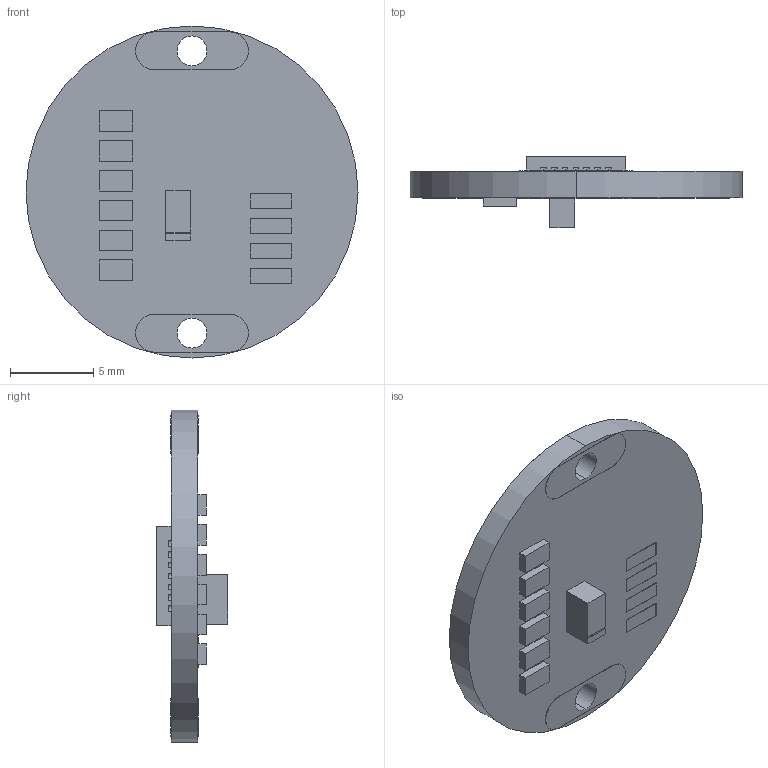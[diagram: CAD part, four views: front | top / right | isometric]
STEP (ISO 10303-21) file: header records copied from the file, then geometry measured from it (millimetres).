
FILE_DESCRIPTION (( 'STEP AP214' ), '1' );
FILE_NAME ('RMB20AC.STEP', '2016-12-19T13:04:27', ( '' ), ( '' ), 'SwSTEP 2.0', 'SolidWorks 2016', '' );
FILE_SCHEMA (( 'AUTOMOTIVE_DESIGN' ));
Length unit declared in the file: millimetre
Products named in the file (1): RMB20AC
Bounding box: 20 x 4.31 x 20 mm (x, y, z)
Volume: 542.1 mm3; surface area: 845.3 mm2
Topology: 1 solids, 1 shells, 446 faces, 1299 edges, 866 vertices
Faces by surface type: plane 301, bspline 92, cylinder 53
Entity records: 20366 total; most frequent: CARTESIAN_POINT 8208, ORIENTED_EDGE 2598, DIRECTION 1987, EDGE_CURVE 1299, VECTOR 953, LINE 953, VERTEX_POINT 866, EDGE_LOOP 519
